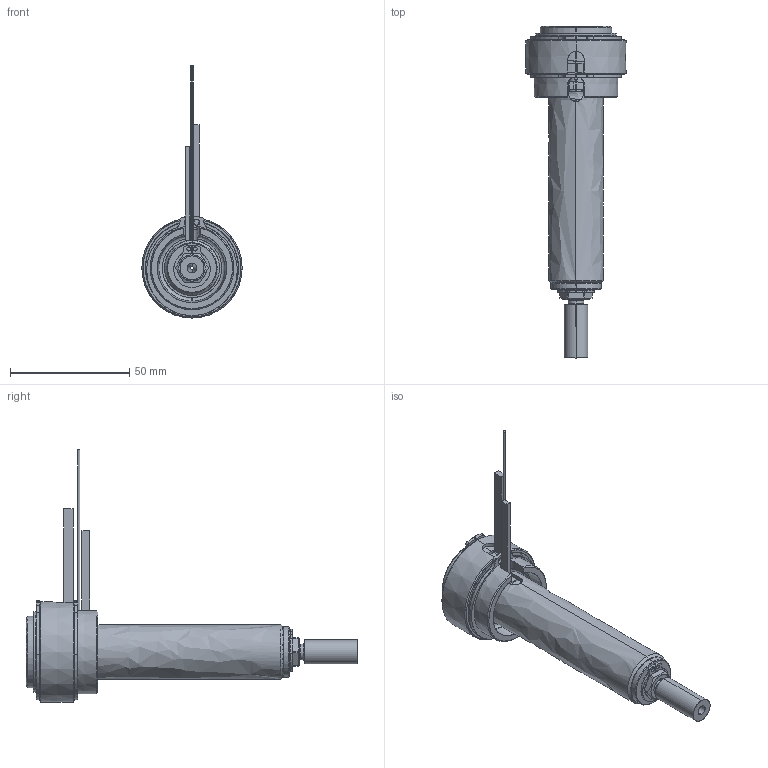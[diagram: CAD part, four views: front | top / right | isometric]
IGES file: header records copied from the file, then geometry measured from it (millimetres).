
Start section: SolidWorks IGES file using analytic representation for surfaces
Global section: file name: C:\Users\luca.EMPAD\Desktop\TEM\UGBE3502-M-A-P-3 [Ød-1.5 P-20 ØC-7.0].IGS; native system: SolidWorks 2012; preprocessor: SolidWorks 2012; author: luca; date: 120330.140412; units: millimetre
Bounding box: 42 x 139 x 105.6 mm (x, y, z)
Surface area: 28721.4 mm2 (no closed solid volume)
Topology: 0 solids, 0 shells, 180 faces, 3226 edges, 3226 vertices
Faces by surface type: revolution 114, bspline 66
